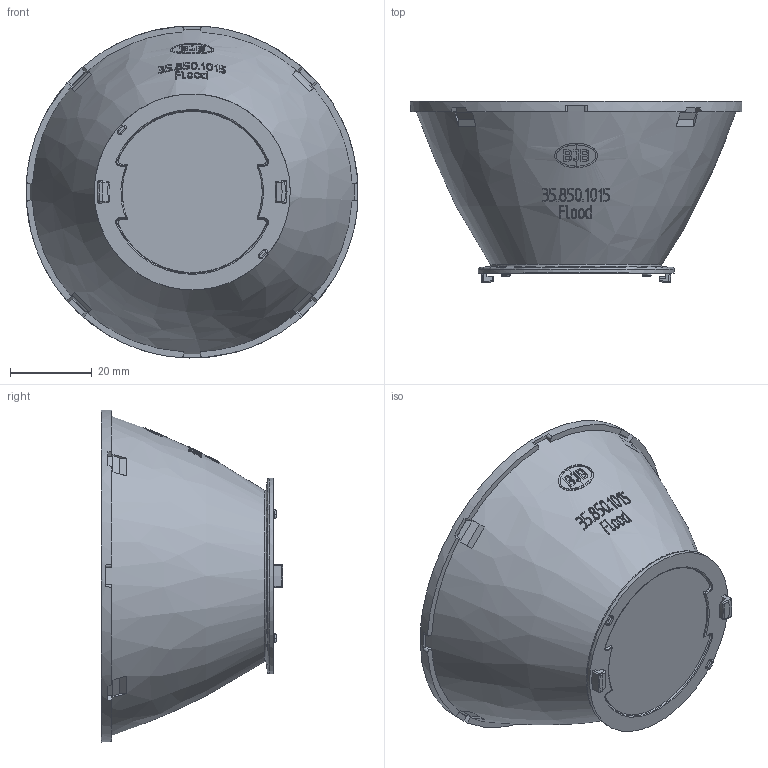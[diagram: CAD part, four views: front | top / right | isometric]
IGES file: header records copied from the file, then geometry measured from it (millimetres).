
Start section: C
Global section: file name: 022-J0G-04.igs; native system: By Siemens PLM Incorporated; preprocessor: XPlus GENERIC/IGES 23.0.61; author: Author; organization: Title; date: 20240607.145942; units: millimetre
Bounding box: 81.21 x 44.35 x 81.25 mm (x, y, z)
Volume: 132598.8 mm3; surface area: 16974.2 mm2
Topology: 1 solids, 1 shells, 342 faces, 932 edges, 609 vertices
Faces by surface type: bspline 342
